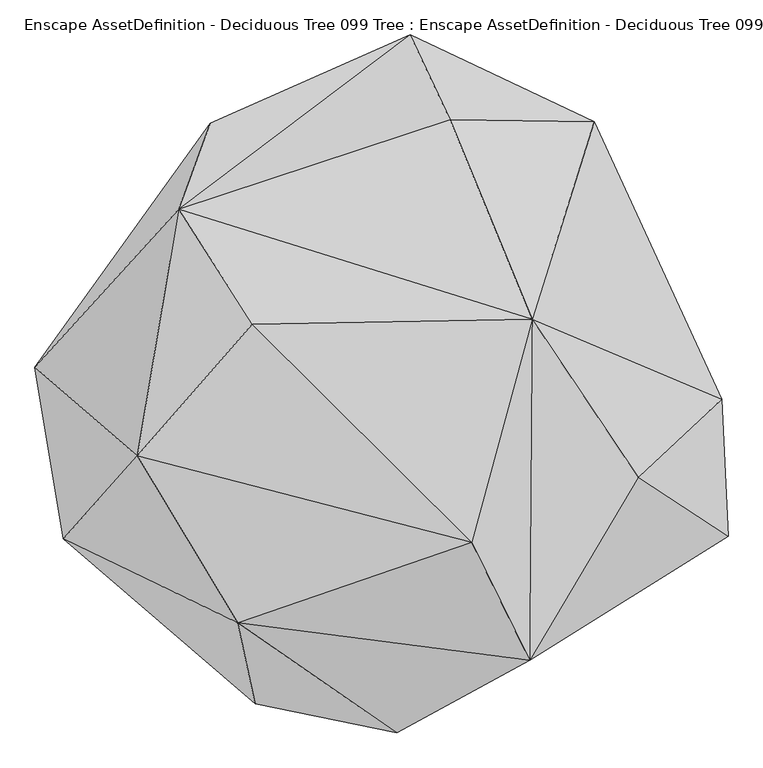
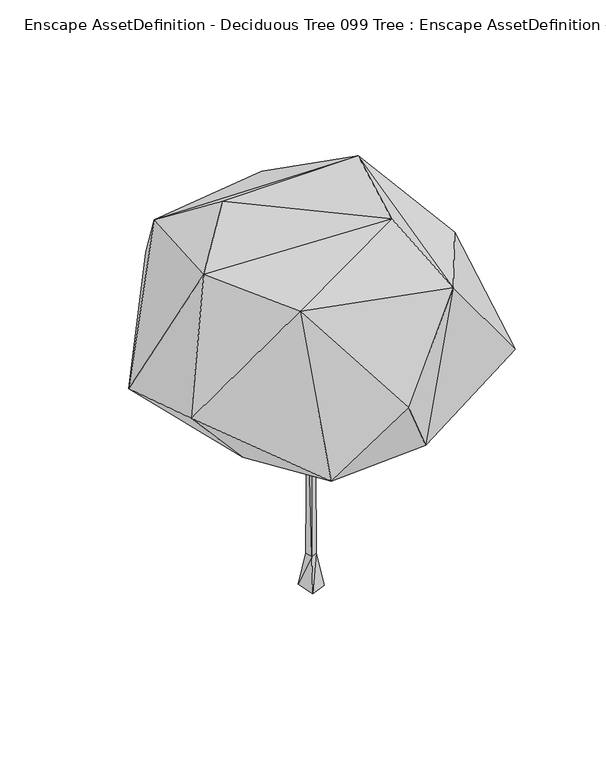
"""IFC4 building model written with IfcOpenShell, lengths in millimetres: geographic element geometry, Enscape AssetDefinition - Deciduous Tree 099 Tree : Enscape AssetDefinition - Deciduous Tree 099 Tree."""

from ifc_helpers import new_model, si_unit, origin, place, context, project, spatial, triangles, source, transform, mapped, element, save


def enscape_assetdefinition_deciduous_tree_099_tree_enscape_4ca26ea1(model_context):
    return source(origin(), model_context, "Body", "Tessellation", [
        triangles([(949.0302263, -248.752876, 2469.6515808), (1283.1708046, -467.6335201, 1542.6138348), (1259.7754303, 40.759576, 1507.2056763), (456.1864717, -483.03625, 1036.6419571), (-539.3183887, -789.77127, 2683.3876625), (554.6824945, 338.3627406, 2863.4208595), (545.1613097, -928.9694595, 2575.965731), (-911.996513, -170.189848, 2736.1015961), (329.7608674, -491.5826397, 2940.237973), (-1293.3428581, 160.5477948, 1747.1022251), (-1187.7953035, -478.6060335, 1861.3942314), (-876.8371038, -617.3850626, 1521.0808468), (-474.4066169, -1091.6600378, 1476.200156), (299.2436894, -992.1545563, 1434.0607224), (52.3413409, -1199.7356358, 1946.0607204), (-617.7714489, -264.3923829, 1323.4122437), (-641.1658058, 1066.5083027, 2066.6255997), (-495.8434261, 846.9529541, 1281.9989285), (249.7148267, 1079.3203114, 2396.7788486), (786.492255, 1073.044677, 1759.7191875), (101.1688248, 1394.9802589, 1715.7489063), (365.2749061, 1016.7692602, 1309.3200806), (-759.4402725, 746.726223, 2564.7021744), (-484.7510436, 319.3886444, 2874.643721), (-8.2739647, -24.3315158, 1473.5947918), (-31.7693681, -81.2853546, -195.4218834), (-60.6460166, 60.6450265, -195.3138777), (0.0, 89.0045509, -195.5615551), (81.2853546, -31.7693681, -195.4208842), (0.0069346, 35.9360696, 64.5610892), (2.3092206, 27.4322713, 1473.526482), (-13.7295103, -32.8263984, 64.5690194), (-24.9526602, 24.9605835, 64.5680292), (32.8333293, -13.7344633, 64.5492077), (-16.6578904, 19.3475245, 1473.5651424), (27.0944581, -10.2443795, 1473.5155815)], [[27, 28, 29], [36, 31, 35], [32, 25, 35], [31, 36, 34], [29, 28, 30], [30, 33, 35], [34, 32, 26], [27, 33, 30], [32, 33, 27], [25, 32, 34], [27, 29, 26], [36, 35, 25], [32, 35, 33], [31, 34, 30], [29, 30, 34], [30, 35, 31], [34, 26, 29], [27, 30, 28], [32, 27, 26], [25, 34, 36], [6, 23, 24], [20, 19, 6], [19, 23, 6], [20, 22, 21], [20, 21, 19], [21, 23, 19], [21, 17, 23], [22, 18, 21], [18, 17, 21], [4, 18, 22], [16, 4, 14], [4, 16, 18], [16, 10, 18], [17, 18, 10], [17, 10, 23], [16, 12, 10], [16, 14, 13], [16, 13, 12], [13, 14, 15], [11, 12, 13], [10, 12, 11], [10, 11, 8], [10, 8, 23], [23, 8, 24], [9, 6, 24], [8, 9, 24], [11, 13, 5], [13, 15, 5], [11, 5, 8], [8, 5, 9], [15, 14, 7], [15, 7, 5], [9, 7, 6], [5, 7, 9], [7, 1, 6], [3, 4, 22], [3, 22, 20], [3, 20, 6], [3, 6, 1], [4, 2, 14], [2, 3, 1], [14, 2, 7], [2, 1, 7], [2, 4, 3]]),
    ])


if __name__ == "__main__":
    model = new_model("IFC4")
    model_context = context("Model", 3, world=origin())
    ifc_project = project(units=[si_unit("LENGTHUNIT", "METRE", prefix="MILLI")], contexts=[model_context])
    site = spatial("IfcSite", under=ifc_project)
    building = spatial("IfcBuilding", under=site)
    placement = place(None, origin())
    enscape_assetdefinition_deciduous_tree_099_tree_enscape_shape = enscape_assetdefinition_deciduous_tree_099_tree_enscape_4ca26ea1(model_context)
    element("IfcGeographicElement", 1, ObjectType="Enscape AssetDefinition - Deciduous Tree 099 Tree : Enscape AssetDefinition - Deciduous Tree 099 Tree", at=placement, inside=building, context=model_context, shape_type="MappedRepresentation", body=[
        mapped(enscape_assetdefinition_deciduous_tree_099_tree_enscape_shape, transform((0.0, 0.0, 0.0), x_axis=(1.0, 0.0, 0.0), y_axis=(0.0, 1.0, 0.0), z_axis=(0.0, 0.0, 1.0))),
    ])
    save(model, "model.ifc")
